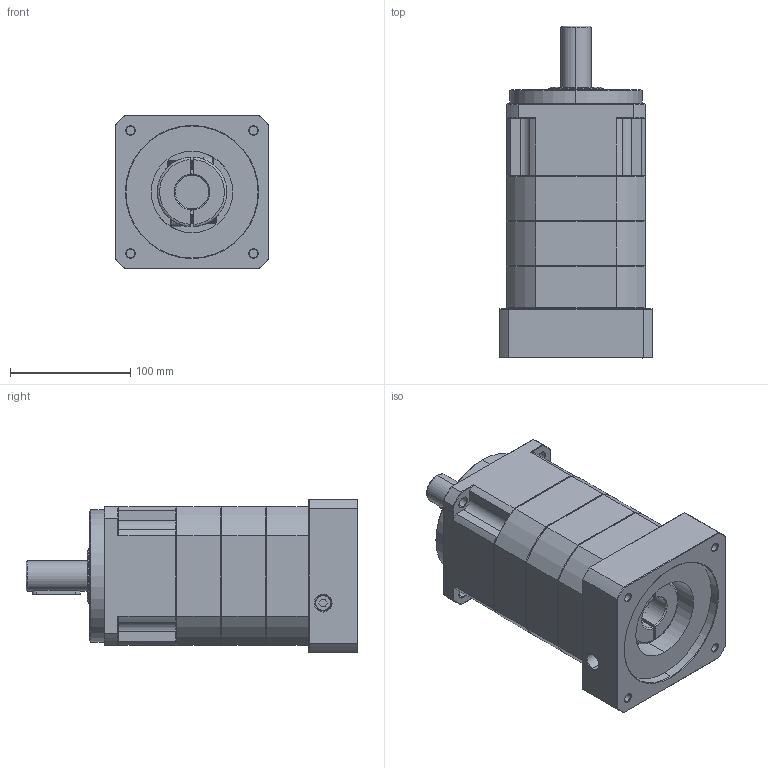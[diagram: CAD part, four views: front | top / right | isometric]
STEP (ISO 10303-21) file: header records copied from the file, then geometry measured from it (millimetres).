
FILE_DESCRIPTION (( 'STEP AP214' ), '1' );
FILE_NAME ('ZPB115-D25-L3-P1-28-110-145-M8.step', '2024-06-11T19:29:55', ( 'Windows 蚚誧' ), ( 'Organization' ), 'SwSTEP 2.0', 'SolidWorks 2016', '' );
FILE_SCHEMA (( 'AUTOMOTIVE_DESIGN' ));
Length unit declared in the file: millimetre
Products named in the file (1): ZPB115-D25-L3-P1-28-110-145-M8
Bounding box: 128 x 276.5 x 128 mm (x, y, z)
Surface area: 174306.7 mm2 (no closed solid volume)
Topology: 0 solids, 29 shells, 1830 faces, 4939 edges, 3169 vertices
Faces by surface type: plane 940, bspline 381, cone 282, cylinder 227
Full cylindrical faces by diameter (mm): 10.2 x1
Entity records: 98830 total; most frequent: CARTESIAN_POINT 49030, ORIENTED_EDGE 9848, DIRECTION 7556, EDGE_CURVE 4933, VECTOR 3180, LINE 3180, VERTEX_POINT 3167, AXIS2_PLACEMENT_3D 2188
